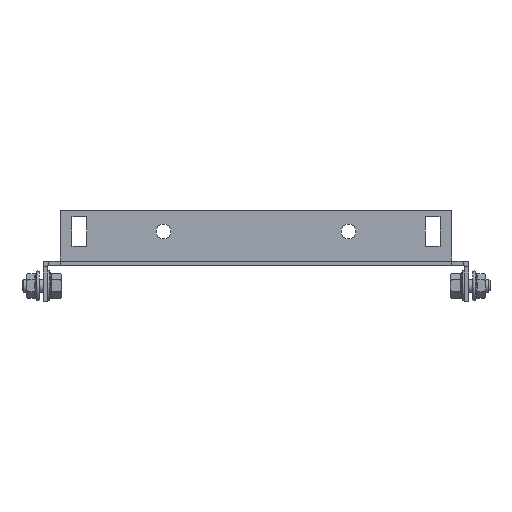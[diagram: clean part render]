
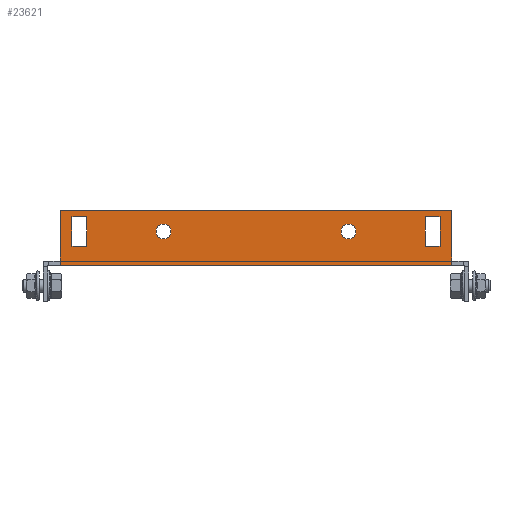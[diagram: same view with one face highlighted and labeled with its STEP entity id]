
A CAD part, front view. The second image highlights one B-rep face of the part: STEP entity #23621.
In plain terms, the highlighted planar face has unit normal (0, -1, 0).
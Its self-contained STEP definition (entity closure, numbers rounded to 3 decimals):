
#21276 = VERTEX_POINT('',#21277);
#21277 = CARTESIAN_POINT('',(92.,-284.5,0.));
#21283 = EDGE_CURVE('',#21284,#21276,#21286,.T.);
#21284 = VERTEX_POINT('',#21285);
#21285 = CARTESIAN_POINT('',(-92.,-284.5,0.));
#21286 = LINE('',#21287,#21288);
#21287 = CARTESIAN_POINT('',(-92.,-284.5,0.));
#21288 = VECTOR('',#21289,1.);
#21289 = DIRECTION('',(1.,-0.,-0.));
#23500 = VERTEX_POINT('',#23501);
#23501 = CARTESIAN_POINT('',(-92.,-284.5,2.6));
#23516 = EDGE_CURVE('',#23500,#21284,#23517,.T.);
#23517 = LINE('',#23518,#23519);
#23518 = CARTESIAN_POINT('',(-92.,-284.5,2.6));
#23519 = VECTOR('',#23520,1.);
#23520 = DIRECTION('',(0.,0.,-1.));
#23540 = VERTEX_POINT('',#23541);
#23541 = CARTESIAN_POINT('',(92.,-284.5,2.6));
#23547 = EDGE_CURVE('',#23540,#21276,#23548,.T.);
#23548 = LINE('',#23549,#23550);
#23549 = CARTESIAN_POINT('',(92.,-284.5,2.));
#23550 = VECTOR('',#23551,1.);
#23551 = DIRECTION('',(-0.,0.,-1.));
#23573 = VERTEX_POINT('',#23574);
#23574 = CARTESIAN_POINT('',(92.,-284.5,26.));
#23580 = EDGE_CURVE('',#23540,#23573,#23581,.T.);
#23581 = LINE('',#23582,#23583);
#23582 = CARTESIAN_POINT('',(92.,-284.5,26.));
#23583 = VECTOR('',#23584,1.);
#23584 = DIRECTION('',(0.,0.,1.));
#23595 = EDGE_CURVE('',#23596,#23500,#23598,.T.);
#23596 = VERTEX_POINT('',#23597);
#23597 = CARTESIAN_POINT('',(-92.,-284.5,26.));
#23598 = LINE('',#23599,#23600);
#23599 = CARTESIAN_POINT('',(-92.,-284.5,2.));
#23600 = VECTOR('',#23601,1.);
#23601 = DIRECTION('',(0.,0.,-1.));
#23621 = ADVANCED_FACE('',(#23622,#23656,#23667,#23678,#23712),#23725,
  .F.);
#23622 = FACE_BOUND('',#23623,.T.);
#23623 = EDGE_LOOP('',(#23624,#23634,#23642,#23650));
#23624 = ORIENTED_EDGE('',*,*,#23625,.F.);
#23625 = EDGE_CURVE('',#23626,#23628,#23630,.T.);
#23626 = VERTEX_POINT('',#23627);
#23627 = CARTESIAN_POINT('',(86.5,-284.5,9.));
#23628 = VERTEX_POINT('',#23629);
#23629 = CARTESIAN_POINT('',(86.5,-284.5,23.));
#23630 = LINE('',#23631,#23632);
#23631 = CARTESIAN_POINT('',(86.5,-284.5,23.));
#23632 = VECTOR('',#23633,1.);
#23633 = DIRECTION('',(-0.,-0.,1.));
#23634 = ORIENTED_EDGE('',*,*,#23635,.F.);
#23635 = EDGE_CURVE('',#23636,#23626,#23638,.T.);
#23636 = VERTEX_POINT('',#23637);
#23637 = CARTESIAN_POINT('',(79.5,-284.5,9.));
#23638 = LINE('',#23639,#23640);
#23639 = CARTESIAN_POINT('',(86.5,-284.5,9.));
#23640 = VECTOR('',#23641,1.);
#23641 = DIRECTION('',(1.,-0.,-0.));
#23642 = ORIENTED_EDGE('',*,*,#23643,.F.);
#23643 = EDGE_CURVE('',#23644,#23636,#23646,.T.);
#23644 = VERTEX_POINT('',#23645);
#23645 = CARTESIAN_POINT('',(79.5,-284.5,23.));
#23646 = LINE('',#23647,#23648);
#23647 = CARTESIAN_POINT('',(79.5,-284.5,9.));
#23648 = VECTOR('',#23649,1.);
#23649 = DIRECTION('',(-0.,-0.,-1.));
#23650 = ORIENTED_EDGE('',*,*,#23651,.F.);
#23651 = EDGE_CURVE('',#23628,#23644,#23652,.T.);
#23652 = LINE('',#23653,#23654);
#23653 = CARTESIAN_POINT('',(79.5,-284.5,23.));
#23654 = VECTOR('',#23655,1.);
#23655 = DIRECTION('',(-1.,-0.,-0.));
#23656 = FACE_BOUND('',#23657,.T.);
#23657 = EDGE_LOOP('',(#23658));
#23658 = ORIENTED_EDGE('',*,*,#23659,.F.);
#23659 = EDGE_CURVE('',#23660,#23660,#23662,.T.);
#23660 = VERTEX_POINT('',#23661);
#23661 = CARTESIAN_POINT('',(43.5,-284.5,19.5));
#23662 = CIRCLE('',#23663,3.5);
#23663 = AXIS2_PLACEMENT_3D('',#23664,#23665,#23666);
#23664 = CARTESIAN_POINT('',(43.5,-284.5,16.));
#23665 = DIRECTION('',(0.,-1.,0.));
#23666 = DIRECTION('',(0.,0.,1.));
#23667 = FACE_BOUND('',#23668,.T.);
#23668 = EDGE_LOOP('',(#23669));
#23669 = ORIENTED_EDGE('',*,*,#23670,.F.);
#23670 = EDGE_CURVE('',#23671,#23671,#23673,.T.);
#23671 = VERTEX_POINT('',#23672);
#23672 = CARTESIAN_POINT('',(-43.5,-284.5,12.5));
#23673 = CIRCLE('',#23674,3.5);
#23674 = AXIS2_PLACEMENT_3D('',#23675,#23676,#23677);
#23675 = CARTESIAN_POINT('',(-43.5,-284.5,16.));
#23676 = DIRECTION('',(0.,-1.,0.));
#23677 = DIRECTION('',(0.,0.,-1.));
#23678 = FACE_BOUND('',#23679,.T.);
#23679 = EDGE_LOOP('',(#23680,#23690,#23698,#23706));
#23680 = ORIENTED_EDGE('',*,*,#23681,.F.);
#23681 = EDGE_CURVE('',#23682,#23684,#23686,.T.);
#23682 = VERTEX_POINT('',#23683);
#23683 = CARTESIAN_POINT('',(-86.5,-284.5,23.));
#23684 = VERTEX_POINT('',#23685);
#23685 = CARTESIAN_POINT('',(-86.5,-284.5,9.));
#23686 = LINE('',#23687,#23688);
#23687 = CARTESIAN_POINT('',(-86.5,-284.5,9.));
#23688 = VECTOR('',#23689,1.);
#23689 = DIRECTION('',(-0.,-0.,-1.));
#23690 = ORIENTED_EDGE('',*,*,#23691,.F.);
#23691 = EDGE_CURVE('',#23692,#23682,#23694,.T.);
#23692 = VERTEX_POINT('',#23693);
#23693 = CARTESIAN_POINT('',(-79.5,-284.5,23.));
#23694 = LINE('',#23695,#23696);
#23695 = CARTESIAN_POINT('',(-86.5,-284.5,23.));
#23696 = VECTOR('',#23697,1.);
#23697 = DIRECTION('',(-1.,-0.,-0.));
#23698 = ORIENTED_EDGE('',*,*,#23699,.F.);
#23699 = EDGE_CURVE('',#23700,#23692,#23702,.T.);
#23700 = VERTEX_POINT('',#23701);
#23701 = CARTESIAN_POINT('',(-79.5,-284.5,9.));
#23702 = LINE('',#23703,#23704);
#23703 = CARTESIAN_POINT('',(-79.5,-284.5,23.));
#23704 = VECTOR('',#23705,1.);
#23705 = DIRECTION('',(-0.,-0.,1.));
#23706 = ORIENTED_EDGE('',*,*,#23707,.F.);
#23707 = EDGE_CURVE('',#23684,#23700,#23708,.T.);
#23708 = LINE('',#23709,#23710);
#23709 = CARTESIAN_POINT('',(-79.5,-284.5,9.));
#23710 = VECTOR('',#23711,1.);
#23711 = DIRECTION('',(1.,-0.,-0.));
#23712 = FACE_BOUND('',#23713,.T.);
#23713 = EDGE_LOOP('',(#23714,#23715,#23716,#23717,#23718,#23719));
#23714 = ORIENTED_EDGE('',*,*,#23595,.T.);
#23715 = ORIENTED_EDGE('',*,*,#23516,.T.);
#23716 = ORIENTED_EDGE('',*,*,#21283,.T.);
#23717 = ORIENTED_EDGE('',*,*,#23547,.F.);
#23718 = ORIENTED_EDGE('',*,*,#23580,.T.);
#23719 = ORIENTED_EDGE('',*,*,#23720,.T.);
#23720 = EDGE_CURVE('',#23573,#23596,#23721,.T.);
#23721 = LINE('',#23722,#23723);
#23722 = CARTESIAN_POINT('',(-92.,-284.5,26.));
#23723 = VECTOR('',#23724,1.);
#23724 = DIRECTION('',(-1.,-0.,-0.));
#23725 = PLANE('',#23726);
#23726 = AXIS2_PLACEMENT_3D('',#23727,#23728,#23729);
#23727 = CARTESIAN_POINT('',(92.,-284.5,2.));
#23728 = DIRECTION('',(-0.,1.,0.));
#23729 = DIRECTION('',(0.,0.,1.));
